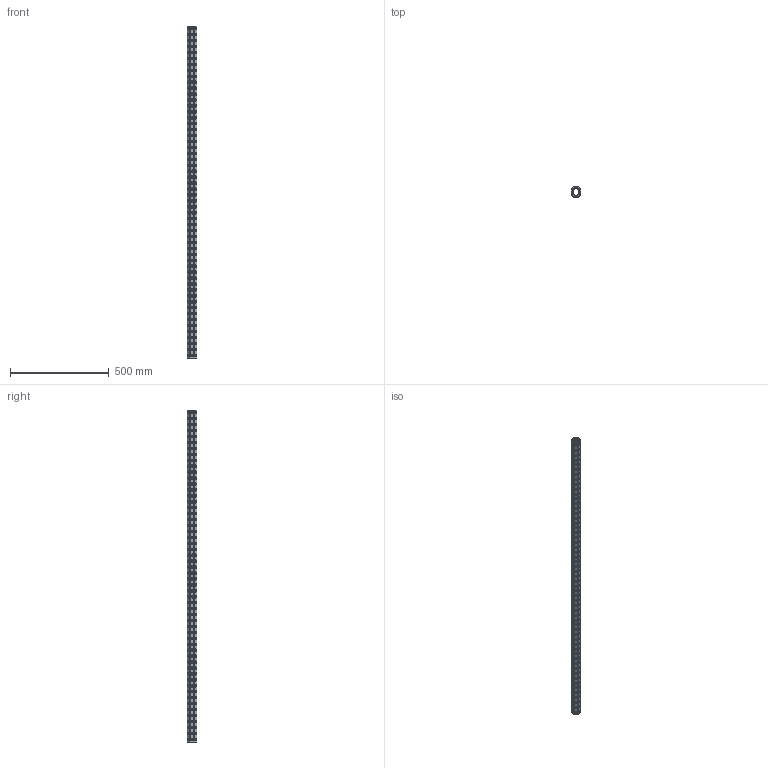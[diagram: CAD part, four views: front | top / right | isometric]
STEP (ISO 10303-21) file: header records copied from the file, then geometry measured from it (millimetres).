
FILE_DESCRIPTION(('CATIA V5 STEP Exchange'),'2;1');
FILE_NAME('U:\Room\唐宝山\EGT002\46-01-010285-01-EGT002-1678.stp','2021-08-24T01:34:25+00:00',('none'),('none'),'CATIA Version 5 Release 21 GA (IN-10)','CATIA V5 STEP AP203','none');
FILE_SCHEMA(('CONFIG_CONTROL_DESIGN'));
Products named in the file (1): 46-01-010285-01-EGT002-1678
Bounding box: 50 x 50 x 1678 mm (x, y, z)
Volume: 1195521.4 mm3; surface area: 576666.1 mm2
Topology: 1 solids, 1 shells, 2324 faces, 6406 edges, 3972 vertices
Faces by surface type: cone 1344, cylinder 954, plane 26
Entity records: 94843 total; most frequent: CARTESIAN_POINT 38530, ORIENTED_EDGE 12812, DIRECTION 9062, EDGE_CURVE 6406, AXIS2_PLACEMENT_3D 4257, VERTEX_POINT 3972, EDGE_LOOP 3110, VECTOR 2482
